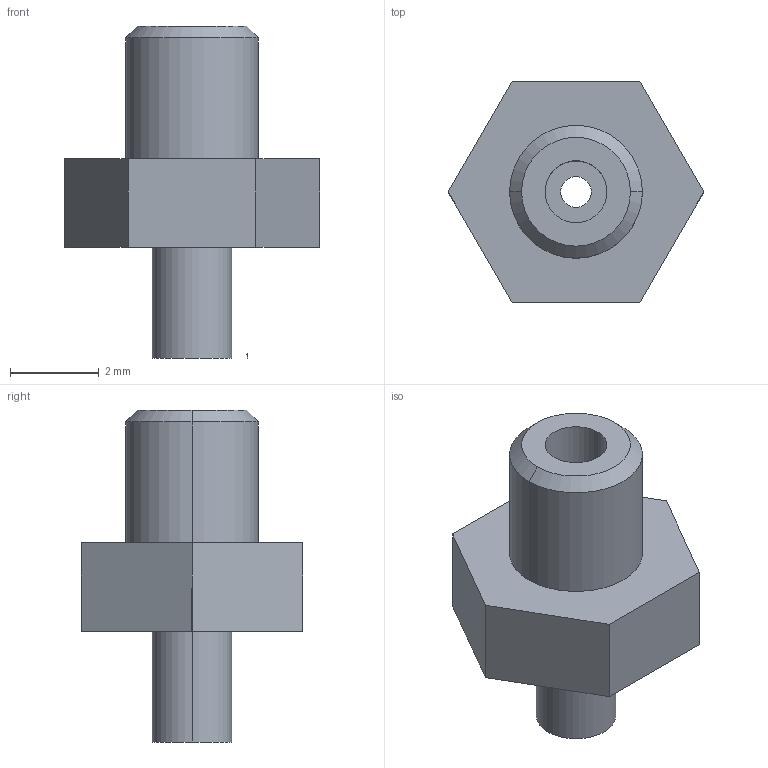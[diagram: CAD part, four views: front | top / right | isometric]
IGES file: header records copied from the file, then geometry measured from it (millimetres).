
Start section: 3D InterOp IGES (v. 2018 1.0.2), Spatial Corp. Copyright (c) 1999-2017.
Global section: file name: schmalz_10_01_01_10376_6etzh0bnnhhqxfd7voebpfcud.igs; native system: Spatial Corp.; preprocessor: 3D InterOp ACIS/IGES; author: TraceParts; organization: TraceParts S.A.; date: 20181115.075416; units: millimetre
Bounding box: 5.77 x 5 x 7.5 mm (x, y, z)
Surface area: 144.3 mm2 (no closed solid volume)
Topology: 0 solids, 0 shells, 31 faces, 130 edges, 128 vertices
Faces by surface type: revolution 18, extrusion 13
